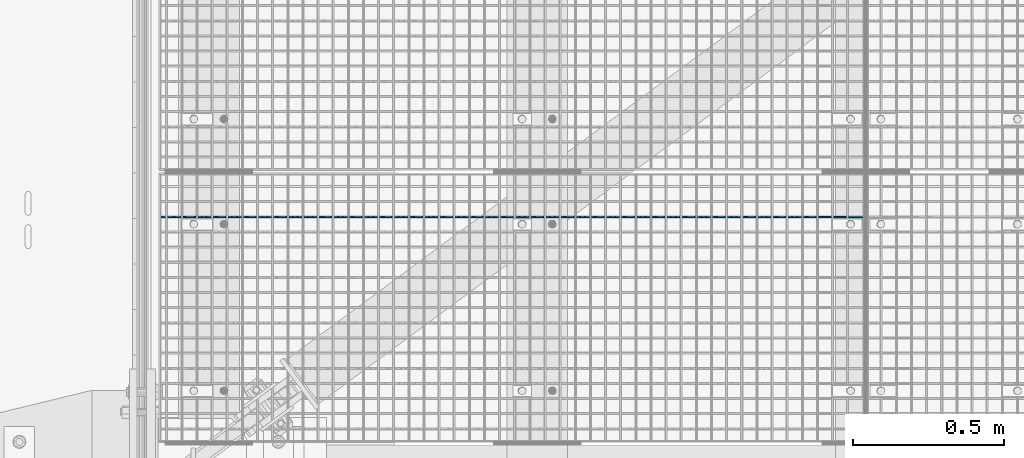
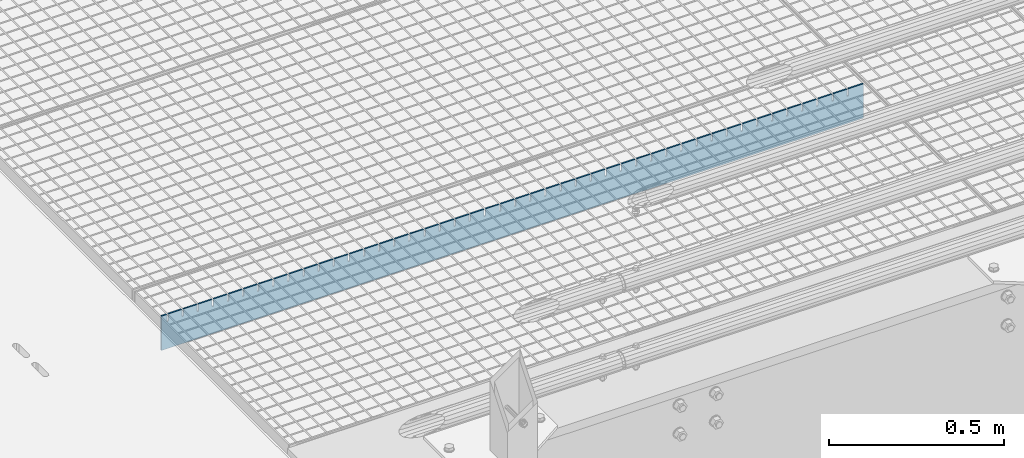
# One storey, part 136 of 1530: 1 beam.
"""IFC2X3 building model written with IfcOpenShell, lengths in millimetres."""

from ifc_helpers import new_model, si_unit, frame, origin_with_axes, place, context, subcontext, project, spatial, faceted_brep, material, type_object, element, save


model = new_model("IFC2X3")

# Units and contexts
model_context = context("Model", 3, precision=1e-05, world=origin_with_axes())
body_context = subcontext(model_context, "Body", "Model", "MODEL_VIEW")
ifc_project = project(units=[si_unit("LENGTHUNIT", "METRE", prefix="MILLI"), si_unit("AREAUNIT", "SQUARE_METRE"), si_unit("VOLUMEUNIT", "CUBIC_METRE"), si_unit("MASSUNIT", "GRAM", prefix="KILO"), si_unit("TIMEUNIT", "SECOND"), si_unit("PLANEANGLEUNIT", "RADIAN"), si_unit("SOLIDANGLEUNIT", "STERADIAN"), si_unit("THERMODYNAMICTEMPERATUREUNIT", "DEGREE_CELSIUS"), si_unit("LUMINOUSINTENSITYUNIT", "LUMEN")], contexts=[model_context])

# Site, building, storey
site_placement = place(None, origin_with_axes())
site = spatial("IfcSite", under=ifc_project, at=site_placement, Name="Brattvåg", CompositionType="ELEMENT")
building_placement = place(site_placement, origin_with_axes())
building = spatial("IfcBuilding", under=site, at=building_placement, Name="Undefined", CompositionType="ELEMENT")
storey_placement = place(building_placement, origin_with_axes())
storey = spatial("IfcBuildingStorey", under=building, at=storey_placement, Name="Undefined", CompositionType="ELEMENT", Elevation=0.0)

# Beam
ifc_material = material(Name="STEEL/S355J2")
beam_type = type_object("IfcBeamType", Name="120*5", PredefinedType="NOTDEFINED")
beam_placement = place(storey_placement, frame((2347.01317977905, 902.995635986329, -59.9998626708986), z_axis=(0.0, 0.0, 1.0), x_axis=(-1.0, 1.99999855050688e-09, 0.0)))
element("IfcBeam", 1, at=beam_placement, inside=storey, type_object=beam_type, material=ifc_material, Name="GRATING", context=body_context, shape_type="Brep", body=[
    faceted_brep([(99.4490367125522, -2.50000000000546, 60.0000722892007), (99.4490367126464, -2.50000000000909, 35.0001373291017), (99.4490367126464, 2.50022888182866, 35.0001373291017), (99.4490367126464, 2.5, 60.0), (104.449036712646, -2.50000000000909, 35.0001373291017), (104.449036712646, 2.50022888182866, 35.0001373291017), (104.449036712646, -2.50000000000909, 60.0001373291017), (104.449036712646, 2.5, 60.0), (54.5084370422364, -2.50000000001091, 60.0001373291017), (54.5084370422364, 2.5, 60.0), (54.5084370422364, 2.49999999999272, 35.0001373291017), (54.5084370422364, -2.50000000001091, 35.0001373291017), (49.5084370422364, 2.49999999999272, 35.0001373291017), (49.5084370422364, -2.50000000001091, 35.0001373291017), (49.5084370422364, -2.5, 60.0), (49.5084370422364, 2.5, 60.0), (0.0, 2.5, 60.0), (0.0, -2.5, 60.0), (0.0, -2.5, -60.0), (0.0, 2.5, -60.0), (2319.99865722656, 2.5, -60.0), (2319.99865722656, -2.5, -60.0), (2319.99865722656, -2.5, 60.0), (2319.99865722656, 2.5, 60.0), (2302.24871932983, 2.5, 60.0), (2302.24871932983, -2.50000000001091, 60.0001373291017), (2302.24871932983, 2.49999999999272, 35.0001373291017), (2302.24871932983, -2.50000000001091, 35.0001373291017), (2297.24871932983, 2.49999999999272, 35.0001373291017), (2297.24871932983, -2.50000000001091, 35.0001373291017), (2297.24871932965, -2.50000000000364, 60.0000461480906), (2297.24871932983, 2.5, 60.0), (2252.29859649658, 2.5, 60.0), (2252.29859649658, -2.50000000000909, 60.0001373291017), (2252.29859649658, 2.50022888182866, 35.0001373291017), (2252.29859649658, -2.50000000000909, 35.0001373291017), (2247.29859649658, 2.50022888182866, 35.0001373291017), (2247.29859649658, -2.50000000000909, 35.0001373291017), (2247.29859649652, -2.50000000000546, 60.0000848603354), (2247.29859649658, 2.5, 60.0), (2202.34847366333, 2.5, 60.0), (2202.34847366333, -2.50000000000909, 60.0001373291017), (2202.34847366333, 2.50022888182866, 35.0001373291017), (2202.34847366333, -2.50000000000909, 35.0001373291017), (2197.34847366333, 2.50022888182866, 35.0001373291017), (2197.34847366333, -2.50000000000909, 35.0001373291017), (2197.34847366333, -2.5, 60.0), (2197.34847366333, 2.5, 60.0), (2152.39882766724, 2.5, 60.0), (2152.39882766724, -2.50000000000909, 60.0001373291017), (2152.39882766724, 2.50022888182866, 35.0001373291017), (2152.39882766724, -2.50000000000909, 35.0001373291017), (2147.39882766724, 2.50022888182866, 35.0001373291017), (2147.39882766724, -2.50000000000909, 35.0001373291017), (2147.39882766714, -2.50000000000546, 60.0000722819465), (2147.39882766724, 2.5, 60.0), (2102.44870483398, 2.5, 60.0), (2102.44870483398, -2.50000000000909, 60.0001373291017), (2102.44870483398, 2.50022888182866, 35.0001373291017), (2102.44870483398, -2.50000000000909, 35.0001373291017), (2097.44870483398, 2.50022888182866, 35.0001373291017), (2097.44870483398, -2.50000000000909, 35.0001373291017), (2097.44870483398, -2.5, 60.0), (2097.44870483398, 2.5, 60.0), (2052.49858200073, 2.5, 60.0), (2052.49858200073, -2.50000000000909, 60.0001373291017), (2052.49858200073, 2.50022888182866, 35.0001373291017), (2052.49858200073, -2.50000000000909, 35.0001373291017), (2047.49858200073, 2.50022888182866, 35.0001373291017), (2047.49858200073, -2.50000000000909, 35.0001373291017), (2047.49858200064, -2.50000000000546, 60.0000722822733), (2047.49858200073, 2.5, 60.0), (2002.54845916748, 2.5, 60.0), (2002.54845916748, -2.50000000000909, 60.0001373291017), (2002.54845916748, 2.50022888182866, 35.0001373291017), (2002.54845916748, -2.50000000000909, 35.0001373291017), (1997.54845916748, 2.50022888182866, 35.0001373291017), (1997.54845916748, -2.50000000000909, 35.0001373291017), (1997.54845916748, -2.5, 60.0), (1997.54845916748, 2.5, 60.0), (1952.59881317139, 2.5, 60.0), (1952.59881317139, -2.50000000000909, 60.0001373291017), (1952.59881317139, 2.50022888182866, 35.0001373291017), (1952.59881317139, -2.50000000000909, 35.0001373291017), (1947.59881317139, 2.50022888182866, 35.0001373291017), (1947.59881317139, -2.50000000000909, 35.0001373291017), (1947.59881317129, -2.50000000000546, 60.0000722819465), (1947.59881317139, 2.5, 60.0), (1902.64869033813, 2.5, 60.0), (1902.64869033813, -2.50000000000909, 60.0001373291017), (1902.64869033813, 2.50022888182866, 35.0001373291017), (1902.64869033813, -2.50000000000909, 35.0001373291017), (1897.64869033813, 2.50022888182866, 35.0001373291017), (1897.64869033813, -2.50000000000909, 35.0001373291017), (1897.64869033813, -2.5, 60.0), (1897.64869033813, 2.5, 60.0), (1852.69856750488, 2.5, 60.0), (1852.69856750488, -2.50000000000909, 60.0001373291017), (1852.69856750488, 2.50022888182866, 35.0001373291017), (1852.69856750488, -2.50000000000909, 35.0001373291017), (1847.69856750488, 2.50022888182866, 35.0001373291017), (1847.69856750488, -2.50000000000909, 35.0001373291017), (1847.69856750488, -2.5, 60.0), (1847.69856750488, 2.5, 60.0), (1802.74892150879, 2.5, 60.0), (1802.74892150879, -2.50000000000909, 60.0001373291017), (1802.74892150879, 2.50022888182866, 35.0001373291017), (1802.74892150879, -2.50000000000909, 35.0001373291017), (1797.74892150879, 2.50022888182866, 35.0001373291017), (1797.74892150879, -2.50000000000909, 35.0001373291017), (1797.74892150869, -2.50000000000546, 60.0000722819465), (1797.74892150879, 2.5, 60.0), (1752.79879867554, 2.5, 60.0), (1752.79879867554, -2.50000000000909, 60.0001373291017), (1752.79879867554, 2.50022888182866, 35.0001373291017), (1752.79879867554, -2.50000000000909, 35.0001373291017), (1747.79879867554, 2.50022888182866, 35.0001373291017), (1747.79879867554, -2.50000000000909, 35.0001373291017), (1747.79879867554, -2.5, 60.0), (1747.79879867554, 2.5, 60.0), (1702.84867584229, 2.5, 60.0), (1702.84867584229, -2.50000000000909, 60.0001373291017), (1702.84867584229, 2.50022888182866, 35.0001373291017), (1702.84867584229, -2.50000000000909, 35.0001373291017), (1697.84867584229, 2.50022888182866, 35.0001373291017), (1697.84867584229, -2.50000000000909, 35.0001373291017), (1697.84867584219, -2.50000000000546, 60.0000722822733), (1697.84867584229, 2.5, 60.0), (1652.89855300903, 2.5, 60.0), (1652.89855300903, -2.50000000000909, 60.0001373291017), (1652.89855300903, 2.50022888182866, 35.0001373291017), (1652.89855300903, -2.50000000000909, 35.0001373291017), (1647.89855300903, 2.50022888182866, 35.0001373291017), (1647.89855300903, -2.50000000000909, 35.0001373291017), (1647.89855300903, -2.5, 60.0), (1647.89855300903, 2.5, 60.0), (1602.94890701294, 2.5, 60.0), (1602.94890701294, -2.50000000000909, 60.0001373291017), (1602.94890701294, 2.50022888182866, 35.0001373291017), (1602.94890701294, -2.50000000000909, 35.0001373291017), (1597.94890701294, 2.50022888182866, 35.0001373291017), (1597.94890701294, -2.50000000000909, 35.0001373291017), (1597.94890701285, -2.50000000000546, 60.0000722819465), (1597.94890701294, 2.5, 60.0), (1552.99878417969, 2.5, 60.0), (1552.99878417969, -2.50000000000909, 60.0001373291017), (1552.99878417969, 2.50022888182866, 35.0001373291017), (1552.99878417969, -2.50000000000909, 35.0001373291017), (1547.99878417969, 2.50022888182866, 35.0001373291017), (1547.99878417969, -2.50000000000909, 35.0001373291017), (1547.99878417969, -2.5, 60.0), (1547.99878417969, 2.5, 60.0), (1503.04866134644, 2.5, 60.0), (1503.04866134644, -2.50000000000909, 60.0001373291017), (1503.04866134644, 2.50022888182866, 35.0001373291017), (1503.04866134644, -2.50000000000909, 35.0001373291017), (1498.04866134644, 2.50022888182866, 35.0001373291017), (1498.04866134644, -2.50000000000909, 35.0001373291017), (1498.04866134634, -2.50000000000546, 60.0000722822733), (1498.04866134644, 2.5, 60.0), (1453.09853851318, 2.5, 60.0), (1453.09853851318, -2.50000000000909, 60.0001373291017), (1453.09853851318, 2.50022888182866, 35.0001373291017), (1453.09853851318, -2.50000000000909, 35.0001373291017), (1448.09853851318, 2.50022888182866, 35.0001373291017), (1448.09853851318, -2.50000000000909, 35.0001373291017), (1448.09853851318, -2.5, 60.0), (1448.09853851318, 2.5, 60.0), (1403.14889251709, 2.5, 60.0), (1403.14889251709, -2.50000000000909, 60.0001373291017), (1403.14889251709, 2.50022888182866, 35.0001373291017), (1403.14889251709, -2.50000000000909, 35.0001373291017), (1398.14889251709, 2.50022888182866, 35.0001373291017), (1398.14889251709, -2.50000000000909, 35.0001373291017), (1398.148892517, -2.50000000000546, 60.0000722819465), (1398.14889251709, 2.5, 60.0), (1353.19876968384, 2.5, 60.0), (1353.19876968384, -2.50000000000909, 60.0001373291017), (1353.19876968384, 2.50022888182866, 35.0001373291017), (1353.19876968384, -2.50000000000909, 35.0001373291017), (1348.19876968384, 2.50022888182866, 35.0001373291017), (1348.19876968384, -2.50000000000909, 35.0001373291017), (1348.19876968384, -2.5, 60.0), (1348.19876968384, 2.5, 60.0), (1303.24864685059, 2.5, 60.0), (1303.24864685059, -2.50000000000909, 60.0001373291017), (1303.24864685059, 2.50022888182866, 35.0001373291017), (1303.24864685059, -2.50000000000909, 35.0001373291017), (1298.24864685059, 2.50022888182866, 35.0001373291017), (1298.24864685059, -2.50000000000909, 35.0001373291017), (1298.24864685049, -2.50000000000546, 60.0000722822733), (1298.24864685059, 2.5, 60.0), (1253.29852401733, 2.5, 60.0), (1253.29852401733, -2.50000000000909, 60.0001373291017), (1253.29852401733, 2.50022888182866, 35.0001373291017), (1253.29852401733, -2.50000000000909, 35.0001373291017), (1248.29852401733, 2.50022888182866, 35.0001373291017), (1248.29852401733, -2.50000000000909, 35.0001373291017), (1248.29852401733, -2.5, 60.0), (1248.29852401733, 2.5, 60.0), (1203.34887802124, 2.5, 60.0), (1203.34887802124, -2.50000000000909, 60.0001373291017), (1203.34887802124, 2.50022888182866, 35.0001373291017), (1203.34887802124, -2.50000000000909, 35.0001373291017), (1198.34887802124, 2.50022888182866, 35.0001373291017), (1198.34887802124, -2.50000000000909, 35.0001373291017), (1198.34887802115, -2.50000000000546, 60.0000722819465), (1198.34887802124, 2.5, 60.0), (1153.39875518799, 2.5, 60.0), (1153.39875518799, -2.50000000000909, 60.0001373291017), (1153.39875518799, 2.50022888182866, 35.0001373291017), (1153.39875518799, -2.50000000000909, 35.0001373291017), (1148.39875518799, 2.50022888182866, 35.0001373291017), (1148.39875518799, -2.50000000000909, 35.0001373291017), (1148.39875518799, -2.5, 60.0), (1148.39875518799, 2.5, 60.0), (1103.44863235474, 2.5, 60.0), (1103.44863235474, -2.50000000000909, 60.0001373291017), (1103.44863235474, 2.50022888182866, 35.0001373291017), (1103.44863235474, -2.50000000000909, 35.0001373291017), (1098.44863235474, 2.50022888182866, 35.0001373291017), (1098.44863235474, -2.50000000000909, 35.0001373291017), (1098.44863235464, -2.50000000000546, 60.0000722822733), (1098.44863235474, 2.5, 60.0), (1053.49850952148, 2.5, 60.0), (1053.49850952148, -2.50000000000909, 60.0001373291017), (1053.49850952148, 2.50022888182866, 35.0001373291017), (1053.49850952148, -2.50000000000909, 35.0001373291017), (1048.49850952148, 2.50022888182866, 35.0001373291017), (1048.49850952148, -2.50000000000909, 35.0001373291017), (1048.49850952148, -2.5, 60.0), (1048.49850952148, 2.5, 60.0), (1003.54886352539, 2.5, 60.0), (1003.54886352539, -2.50000000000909, 60.0001373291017), (1003.54886352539, 2.50022888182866, 35.0001373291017), (1003.54886352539, -2.50000000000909, 35.0001373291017), (998.548863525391, 2.50022888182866, 35.0001373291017), (998.548863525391, -2.50000000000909, 35.0001373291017), (998.548863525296, -2.50000000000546, 60.0000722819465), (998.548863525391, 2.5, 60.0), (953.598740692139, 2.5, 60.0), (953.598740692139, -2.50000000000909, 60.0001373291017), (953.598740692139, 2.50022888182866, 35.0001373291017), (953.598740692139, -2.50000000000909, 35.0001373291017), (948.598740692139, 2.50022888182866, 35.0001373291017), (948.598740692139, -2.50000000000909, 35.0001373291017), (948.598740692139, -2.5, 60.0), (948.598740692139, 2.5, 60.0), (903.648617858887, 2.5, 60.0), (903.648617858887, -2.50000000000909, 60.0001373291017), (903.648617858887, 2.50022888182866, 35.0001373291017), (903.648617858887, -2.50000000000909, 35.0001373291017), (898.648617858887, 2.50022888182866, 35.0001373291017), (898.648617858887, -2.50000000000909, 35.0001373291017), (898.648617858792, -2.50000000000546, 60.0000722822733), (898.648617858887, 2.5, 60.0), (853.698495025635, 2.5, 60.0), (853.698495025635, -2.50000000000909, 60.0001373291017), (853.698495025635, 2.50022888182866, 35.0001373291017), (853.698495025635, -2.50000000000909, 35.0001373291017), (848.698495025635, 2.50022888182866, 35.0001373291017), (848.698495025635, -2.50000000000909, 35.0001373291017), (848.698495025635, -2.5, 60.0), (848.698495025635, 2.5, 60.0), (803.748849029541, 2.5, 60.0), (803.748849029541, -2.50000000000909, 60.0001373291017), (803.748849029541, 2.50022888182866, 35.0001373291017), (803.748849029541, -2.50000000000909, 35.0001373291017), (798.748849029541, 2.50022888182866, 35.0001373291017), (798.748849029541, -2.50000000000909, 35.0001373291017), (798.748849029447, -2.50000000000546, 60.0000722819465), (798.748849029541, 2.5, 60.0), (753.798726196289, 2.5, 60.0), (753.798726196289, -2.50000000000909, 60.0001373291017), (753.798726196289, 2.50022888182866, 35.0001373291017), (753.798726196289, -2.50000000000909, 35.0001373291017), (748.798726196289, 2.50022888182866, 35.0001373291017), (748.798726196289, -2.50000000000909, 35.0001373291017), (748.798726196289, -2.5, 60.0), (748.798726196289, 2.5, 60.0), (703.848603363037, 2.5, 60.0), (703.848603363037, -2.50000000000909, 60.0001373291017), (703.848603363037, 2.50022888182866, 35.0001373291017), (703.848603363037, -2.50000000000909, 35.0001373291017), (698.848603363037, 2.50022888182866, 35.0001373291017), (698.848603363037, -2.50000000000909, 35.0001373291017), (698.848603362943, -2.50000000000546, 60.0000722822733), (698.848603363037, 2.5, 60.0), (653.898480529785, 2.5, 60.0), (653.898480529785, -2.50000000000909, 60.0001373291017), (653.898480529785, 2.50022888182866, 35.0001373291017), (653.898480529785, -2.50000000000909, 35.0001373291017), (648.898480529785, 2.50022888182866, 35.0001373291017), (648.898480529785, -2.50000000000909, 35.0001373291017), (648.898480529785, -2.5, 60.0), (648.898480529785, 2.5, 60.0), (603.948834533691, 2.5, 60.0), (603.948834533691, -2.50000000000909, 60.0001373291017), (603.948834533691, 2.50022888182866, 35.0001373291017), (603.948834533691, -2.50000000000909, 35.0001373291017), (598.948834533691, 2.50022888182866, 35.0001373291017), (598.948834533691, -2.50000000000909, 35.0001373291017), (598.948834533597, -2.50000000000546, 60.0000722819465), (598.948834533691, 2.5, 60.0), (553.998711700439, 2.5, 60.0), (553.998711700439, -2.50000000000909, 60.0001373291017), (553.998711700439, 2.50022888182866, 35.0001373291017), (553.998711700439, -2.50000000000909, 35.0001373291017), (548.998711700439, 2.50022888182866, 35.0001373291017), (548.998711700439, -2.50000000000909, 35.0001373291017), (548.998711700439, -2.5, 60.0), (548.998711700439, 2.5, 60.0), (504.048588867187, 2.5, 60.0), (504.048588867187, -2.50000000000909, 60.0001373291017), (504.048588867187, 2.50022888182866, 35.0001373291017), (504.048588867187, -2.50000000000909, 35.0001373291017), (499.048588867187, 2.50022888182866, 35.0001373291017), (499.048588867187, -2.50000000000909, 35.0001373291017), (499.048588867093, -2.50000000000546, 60.0000722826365), (499.048588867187, 2.5, 60.0), (454.098942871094, 2.5, 60.0), (454.098942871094, -2.50000000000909, 60.0001373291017), (454.098942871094, 2.50022888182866, 35.0001373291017), (454.098942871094, -2.50000000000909, 35.0001373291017), (449.098942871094, 2.50022888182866, 35.0001373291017), (449.098942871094, -2.50000000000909, 35.0001373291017), (449.098942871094, -2.5, 60.0), (449.098942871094, 2.5, 60.0), (404.148820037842, 2.5, 60.0), (404.148820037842, -2.50000000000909, 60.0001373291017), (404.148820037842, 2.50022888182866, 35.0001373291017), (404.148820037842, -2.50000000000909, 35.0001373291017), (399.148820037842, 2.50022888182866, 35.0001373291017), (399.148820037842, -2.50000000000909, 35.0001373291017), (399.148820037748, -2.50000000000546, 60.0000722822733), (399.148820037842, 2.5, 60.0), (354.19869720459, 2.5, 60.0), (354.19869720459, -2.50000000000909, 60.0001373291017), (354.19869720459, 2.50022888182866, 35.0001373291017), (354.19869720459, -2.50000000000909, 35.0001373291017), (349.19869720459, 2.50022888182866, 35.0001373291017), (349.19869720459, -2.50000000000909, 35.0001373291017), (349.19869720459, -2.5, 60.0), (349.19869720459, 2.5, 60.0), (304.248574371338, 2.5, 60.0), (304.248574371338, -2.50000000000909, 60.0001373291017), (304.248574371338, 2.50022888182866, 35.0001373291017), (304.248574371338, -2.50000000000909, 35.0001373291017), (299.248574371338, 2.50022888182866, 35.0001373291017), (299.248574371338, -2.50000000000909, 35.0001373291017), (299.248574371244, -2.50000000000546, 60.0000722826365), (299.248574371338, 2.5, 60.0), (254.298928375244, 2.5, 60.0), (254.298928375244, -2.50000000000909, 60.0001373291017), (254.298928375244, 2.50022888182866, 35.0001373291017), (254.298928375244, -2.50000000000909, 35.0001373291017), (249.298928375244, 2.50022888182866, 35.0001373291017), (249.298928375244, -2.50000000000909, 35.0001373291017), (249.298928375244, -2.5, 60.0), (249.298928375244, 2.5, 60.0), (204.348328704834, 2.5, 60.0), (204.348328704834, -2.50000000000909, 60.0001373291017), (204.348328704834, 2.50022888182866, 35.0001373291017), (204.348328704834, -2.50000000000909, 35.0001373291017), (199.348328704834, 2.50022888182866, 35.0001373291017), (199.348328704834, -2.50000000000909, 35.0001373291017), (199.34832870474, -2.50000000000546, 60.0000722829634), (199.348328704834, 2.5, 60.0), (154.39868270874, 2.5, 60.0), (154.39868270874, -2.50000000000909, 60.0001373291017), (154.39868270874, 2.50022888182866, 35.0001373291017), (154.39868270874, -2.50000000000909, 35.0001373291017), (149.39868270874, 2.50022888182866, 35.0001373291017), (149.39868270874, -2.50000000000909, 35.0001373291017), (149.39868270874, -2.5, 60.0), (149.39868270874, 2.5, 60.0)], [[[0, 1, 2, 3]], [[4, 5, 2, 1]], [[6, 7, 5, 4]], [[8, 9, 10, 11]], [[11, 10, 12, 13]], [[14, 13, 12, 15]], [[16, 17, 14, 15]], [[18, 17, 16, 19]], [[18, 19, 20, 21]], [[22, 21, 20, 23]], [[22, 23, 24, 25]], [[25, 24, 26, 27]], [[27, 26, 28, 29]], [[30, 29, 28, 31]], [[32, 33, 30, 31]], [[33, 32, 34, 35]], [[35, 34, 36, 37]], [[38, 37, 36, 39]], [[40, 41, 38, 39]], [[41, 40, 42, 43]], [[43, 42, 44, 45]], [[46, 45, 44, 47]], [[46, 47, 48, 49]], [[49, 48, 50, 51]], [[51, 50, 52, 53]], [[54, 53, 52, 55]], [[56, 57, 54, 55]], [[57, 56, 58, 59]], [[59, 58, 60, 61]], [[62, 61, 60, 63]], [[62, 63, 64, 65]], [[65, 64, 66, 67]], [[67, 66, 68, 69]], [[70, 69, 68, 71]], [[72, 73, 70, 71]], [[73, 72, 74, 75]], [[75, 74, 76, 77]], [[78, 77, 76, 79]], [[78, 79, 80, 81]], [[81, 80, 82, 83]], [[83, 82, 84, 85]], [[86, 85, 84, 87]], [[88, 89, 86, 87]], [[89, 88, 90, 91]], [[91, 90, 92, 93]], [[94, 93, 92, 95]], [[94, 95, 96, 97]], [[97, 96, 98, 99]], [[99, 98, 100, 101]], [[102, 101, 100, 103]], [[102, 103, 104, 105]], [[105, 104, 106, 107]], [[107, 106, 108, 109]], [[110, 109, 108, 111]], [[112, 113, 110, 111]], [[113, 112, 114, 115]], [[115, 114, 116, 117]], [[118, 117, 116, 119]], [[118, 119, 120, 121]], [[121, 120, 122, 123]], [[123, 122, 124, 125]], [[126, 125, 124, 127]], [[128, 129, 126, 127]], [[129, 128, 130, 131]], [[131, 130, 132, 133]], [[134, 133, 132, 135]], [[134, 135, 136, 137]], [[137, 136, 138, 139]], [[139, 138, 140, 141]], [[142, 141, 140, 143]], [[144, 145, 142, 143]], [[145, 144, 146, 147]], [[147, 146, 148, 149]], [[150, 149, 148, 151]], [[150, 151, 152, 153]], [[153, 152, 154, 155]], [[155, 154, 156, 157]], [[158, 157, 156, 159]], [[160, 161, 158, 159]], [[161, 160, 162, 163]], [[163, 162, 164, 165]], [[166, 165, 164, 167]], [[166, 167, 168, 169]], [[169, 168, 170, 171]], [[171, 170, 172, 173]], [[174, 173, 172, 175]], [[176, 177, 174, 175]], [[177, 176, 178, 179]], [[179, 178, 180, 181]], [[182, 181, 180, 183]], [[182, 183, 184, 185]], [[185, 184, 186, 187]], [[187, 186, 188, 189]], [[190, 189, 188, 191]], [[192, 193, 190, 191]], [[193, 192, 194, 195]], [[195, 194, 196, 197]], [[198, 197, 196, 199]], [[198, 199, 200, 201]], [[201, 200, 202, 203]], [[203, 202, 204, 205]], [[206, 205, 204, 207]], [[208, 209, 206, 207]], [[209, 208, 210, 211]], [[211, 210, 212, 213]], [[214, 213, 212, 215]], [[214, 215, 216, 217]], [[217, 216, 218, 219]], [[219, 218, 220, 221]], [[222, 221, 220, 223]], [[224, 225, 222, 223]], [[225, 224, 226, 227]], [[227, 226, 228, 229]], [[230, 229, 228, 231]], [[230, 231, 232, 233]], [[233, 232, 234, 235]], [[235, 234, 236, 237]], [[238, 237, 236, 239]], [[240, 241, 238, 239]], [[241, 240, 242, 243]], [[243, 242, 244, 245]], [[246, 245, 244, 247]], [[246, 247, 248, 249]], [[249, 248, 250, 251]], [[251, 250, 252, 253]], [[254, 253, 252, 255]], [[256, 257, 254, 255]], [[257, 256, 258, 259]], [[259, 258, 260, 261]], [[262, 261, 260, 263]], [[262, 263, 264, 265]], [[265, 264, 266, 267]], [[267, 266, 268, 269]], [[270, 269, 268, 271]], [[272, 273, 270, 271]], [[273, 272, 274, 275]], [[275, 274, 276, 277]], [[278, 277, 276, 279]], [[278, 279, 280, 281]], [[281, 280, 282, 283]], [[283, 282, 284, 285]], [[286, 285, 284, 287]], [[288, 289, 286, 287]], [[289, 288, 290, 291]], [[291, 290, 292, 293]], [[294, 293, 292, 295]], [[294, 295, 296, 297]], [[297, 296, 298, 299]], [[299, 298, 300, 301]], [[302, 301, 300, 303]], [[304, 305, 302, 303]], [[305, 304, 306, 307]], [[307, 306, 308, 309]], [[310, 309, 308, 311]], [[310, 311, 312, 313]], [[313, 312, 314, 315]], [[315, 314, 316, 317]], [[318, 317, 316, 319]], [[320, 321, 318, 319]], [[321, 320, 322, 323]], [[323, 322, 324, 325]], [[326, 325, 324, 327]], [[326, 327, 328, 329]], [[329, 328, 330, 331]], [[331, 330, 332, 333]], [[334, 333, 332, 335]], [[336, 337, 334, 335]], [[337, 336, 338, 339]], [[339, 338, 340, 341]], [[342, 341, 340, 343]], [[342, 343, 344, 345]], [[345, 344, 346, 347]], [[347, 346, 348, 349]], [[350, 349, 348, 351]], [[352, 353, 350, 351]], [[353, 352, 354, 355]], [[355, 354, 356, 357]], [[358, 357, 356, 359]], [[358, 359, 360, 361]], [[361, 360, 362, 363]], [[363, 362, 364, 365]], [[366, 365, 364, 367]], [[368, 369, 366, 367]], [[369, 368, 370, 371]], [[371, 370, 372, 373]], [[374, 373, 372, 375]], [[1, 0, 8, 11, 13, 14, 17, 18, 21, 22, 25, 27, 29, 30, 33, 35, 37, 38, 41, 43, 45, 46, 49, 51, 53, 54, 57, 59, 61, 62, 65, 67, 69, 70, 73, 75, 77, 78, 81, 83, 85, 86, 89, 91, 93, 94, 97, 99, 101, 102, 105, 107, 109, 110, 113, 115, 117, 118, 121, 123, 125, 126, 129, 131, 133, 134, 137, 139, 141, 142, 145, 147, 149, 150, 153, 155, 157, 158, 161, 163, 165, 166, 169, 171, 173, 174, 177, 179, 181, 182, 185, 187, 189, 190, 193, 195, 197, 198, 201, 203, 205, 206, 209, 211, 213, 214, 217, 219, 221, 222, 225, 227, 229, 230, 233, 235, 237, 238, 241, 243, 245, 246, 249, 251, 253, 254, 257, 259, 261, 262, 265, 267, 269, 270, 273, 275, 277, 278, 281, 283, 285, 286, 289, 291, 293, 294, 297, 299, 301, 302, 305, 307, 309, 310, 313, 315, 317, 318, 321, 323, 325, 326, 329, 331, 333, 334, 337, 339, 341, 342, 345, 347, 349, 350, 353, 355, 357, 358, 361, 363, 365, 366, 369, 371, 373, 374, 6, 4]], [[9, 8, 0, 3]], [[375, 372, 370, 368, 367, 364, 362, 360, 359, 356, 354, 352, 351, 348, 346, 344, 343, 340, 338, 336, 335, 332, 330, 328, 327, 324, 322, 320, 319, 316, 314, 312, 311, 308, 306, 304, 303, 300, 298, 296, 295, 292, 290, 288, 287, 284, 282, 280, 279, 276, 274, 272, 271, 268, 266, 264, 263, 260, 258, 256, 255, 252, 250, 248, 247, 244, 242, 240, 239, 236, 234, 232, 231, 228, 226, 224, 223, 220, 218, 216, 215, 212, 210, 208, 207, 204, 202, 200, 199, 196, 194, 192, 191, 188, 186, 184, 183, 180, 178, 176, 175, 172, 170, 168, 167, 164, 162, 160, 159, 156, 154, 152, 151, 148, 146, 144, 143, 140, 138, 136, 135, 132, 130, 128, 127, 124, 122, 120, 119, 116, 114, 112, 111, 108, 106, 104, 103, 100, 98, 96, 95, 92, 90, 88, 87, 84, 82, 80, 79, 76, 74, 72, 71, 68, 66, 64, 63, 60, 58, 56, 55, 52, 50, 48, 47, 44, 42, 40, 39, 36, 34, 32, 31, 28, 26, 24, 23, 20, 19, 16, 15, 12, 10, 9, 3, 2, 5, 7]], [[374, 375, 7, 6]]]),
])

save(model, "model.ifc")
